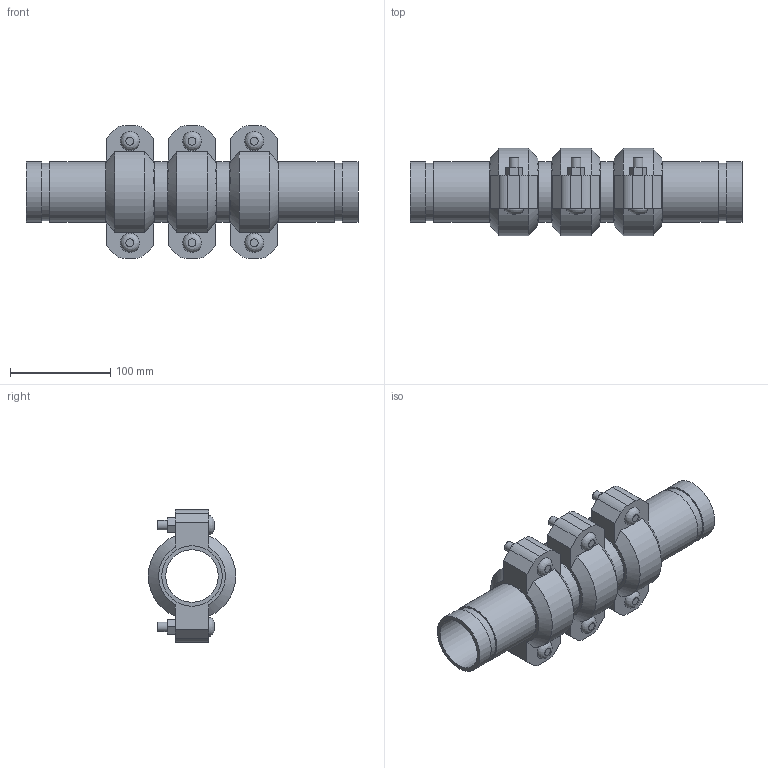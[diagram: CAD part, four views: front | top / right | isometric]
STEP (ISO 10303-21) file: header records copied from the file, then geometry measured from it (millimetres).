
FILE_DESCRIPTION(/* description */ ('VIC EXPANSION JOINT 3 COUPLINGS EXPANDED STYLE 155 (OGS)','CAx-IF Rec.Pracs.---Representation and Presentation of Product Manufacturing Information (PMI)---4.0---2014-10-13'),/* implementation_level */ '2;1');
FILE_NAME(/* name */ 'C:\Users\kkamble\AppData\Roaming\Autodesk\ApplicationPlugins\Victaulic.Temp\A258\Victaulic_IPS_Expansion Joint_Expanded_3 Couplings_Style 155 (OGS)_2 (50).stp',/* time_stamp */ '2021-06-26T23:58:11+02:00',/* author */ ('kkamble'),/* organization */ ('Victaulic'),/* preprocessor_version */ 'ST-DEVELOPER v17.2',/* originating_system */ 'Autodesk Inventor 2019',/* authorisation */ '');
FILE_SCHEMA (('AP242_MANAGED_MODEL_BASED_3D_ENGINEERING_MIM_LF { 1 0 10303 442 1 1 4 }'));
Length unit declared in the file: inch
Products named in the file (4): 155-02.0; Nipple-02.0; Nipple-02.0_1; 075-02.0
Assembly tree (7 placements, depth 2):
  155-02.0
    Nipple-02.0  x2
    Nipple-02.0_1  x2
    075-02.0  x3
Bounding box: 331.47 x 87.12 x 132.59 mm (x, y, z)
Volume: 810559.8 mm3; surface area: 244968.7 mm2
Topology: 7 solids, 13 shells, 219 faces, 519 edges, 366 vertices
Faces by surface type: plane 132, cylinder 69, cone 12, bspline 6
Full cylindrical faces by diameter (mm): 9.525 x12, 11.43 x6, 52.502 x4, 53.975 x3, 57.15 x8, 60.325 x18
Entity records: 2769 total; most frequent: CARTESIAN_POINT 491, DIRECTION 457, ORIENTED_EDGE 386, EDGE_CURVE 193, AXIS2_PLACEMENT_3D 182, VERTEX_POINT 138, EDGE_LOOP 107, LINE 93
